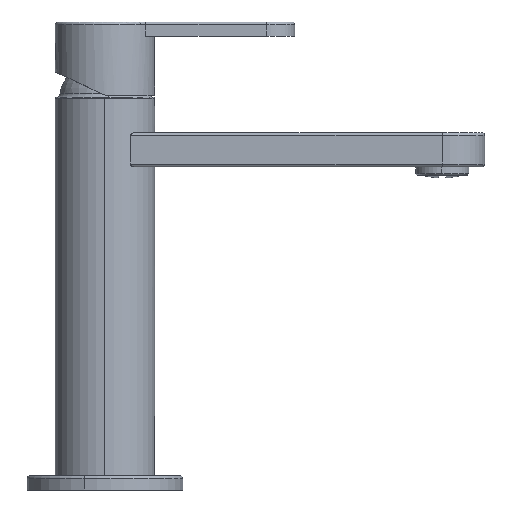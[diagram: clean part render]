
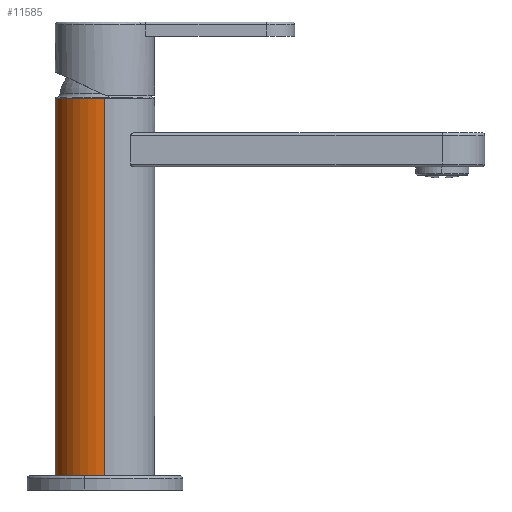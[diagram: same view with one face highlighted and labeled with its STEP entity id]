
A CAD part, left-side view. The second image highlights one B-rep face of the part: STEP entity #11585.
In plain terms, the highlighted cylindrical face has radius 17.5 mm (diameter 35 mm), a partial arc.
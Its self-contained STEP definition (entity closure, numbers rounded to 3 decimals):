
#380 = DIRECTION ( 'NONE',  ( 0., 0., 1. ) ) ;
#384 = EDGE_CURVE ( 'NONE', #10978, #7063, #7035, .T. ) ;
#388 = LINE ( 'NONE', #18794, #4739 ) ;
#4630 = CARTESIAN_POINT ( 'NONE',  ( 0., 0., 32.5 ) ) ;
#4739 = VECTOR ( 'NONE', #13426, 1000. ) ;
#4746 = ORIENTED_EDGE ( 'NONE', *, *, #6817, .T. ) ;
#4882 = VERTEX_POINT ( 'NONE', #15861 ) ;
#5052 = DIRECTION ( 'NONE',  ( 0., 0., 1. ) ) ;
#6723 = DIRECTION ( 'NONE',  ( 1., 0., 0. ) ) ;
#6817 = EDGE_CURVE ( 'NONE', #10978, #15013, #18588, .T. ) ;
#7035 = CIRCLE ( 'NONE', #13733, 17.5 ) ;
#7063 = VERTEX_POINT ( 'NONE', #16742 ) ;
#8048 = VECTOR ( 'NONE', #380, 1000. ) ;
#9422 = AXIS2_PLACEMENT_3D ( 'NONE', #16882, #16553, #14893 ) ;
#9562 = ORIENTED_EDGE ( 'NONE', *, *, #384, .F. ) ;
#10978 = VERTEX_POINT ( 'NONE', #14488 ) ;
#11028 = ORIENTED_EDGE ( 'NONE', *, *, #16974, .T. ) ;
#11536 = CARTESIAN_POINT ( 'NONE',  ( -17.5, 0., 63. ) ) ;
#11585 = ADVANCED_FACE ( 'NONE', ( #18198 ), #21610, .T. ) ;
#12309 = CARTESIAN_POINT ( 'NONE',  ( 0., 0., -70. ) ) ;
#13426 = DIRECTION ( 'NONE',  ( 0., 0., 1. ) ) ;
#13733 = AXIS2_PLACEMENT_3D ( 'NONE', #12309, #14477, #19017 ) ;
#14477 = DIRECTION ( 'NONE',  ( 0., 0., -1. ) ) ;
#14488 = CARTESIAN_POINT ( 'NONE',  ( -17.5, 0., -70. ) ) ;
#14893 = DIRECTION ( 'NONE',  ( 1., 0., 0. ) ) ;
#15013 = VERTEX_POINT ( 'NONE', #11536 ) ;
#15370 = AXIS2_PLACEMENT_3D ( 'NONE', #4630, #5052, #6723 ) ;
#15861 = CARTESIAN_POINT ( 'NONE',  ( 17.5, 0., 63. ) ) ;
#16553 = DIRECTION ( 'NONE',  ( 0., 0., -1. ) ) ;
#16742 = CARTESIAN_POINT ( 'NONE',  ( 17.5, 0., -70. ) ) ;
#16882 = CARTESIAN_POINT ( 'NONE',  ( 0., 0., 63. ) ) ;
#16899 = ORIENTED_EDGE ( 'NONE', *, *, #19566, .F. ) ;
#16974 = EDGE_CURVE ( 'NONE', #15013, #4882, #19263, .T. ) ;
#17652 = EDGE_LOOP ( 'NONE', ( #9562, #4746, #11028, #16899 ) ) ;
#18198 = FACE_OUTER_BOUND ( 'NONE', #17652, .T. ) ;
#18588 = LINE ( 'NONE', #18686, #8048 ) ;
#18686 = CARTESIAN_POINT ( 'NONE',  ( -17.5, 0., 32.5 ) ) ;
#18794 = CARTESIAN_POINT ( 'NONE',  ( 17.5, 0., 32.5 ) ) ;
#19017 = DIRECTION ( 'NONE',  ( -1., 0., 0. ) ) ;
#19263 = CIRCLE ( 'NONE', #9422, 17.5 ) ;
#19566 = EDGE_CURVE ( 'NONE', #7063, #4882, #388, .T. ) ;
#21610 = CYLINDRICAL_SURFACE ( 'NONE', #15370, 17.5 ) ;
